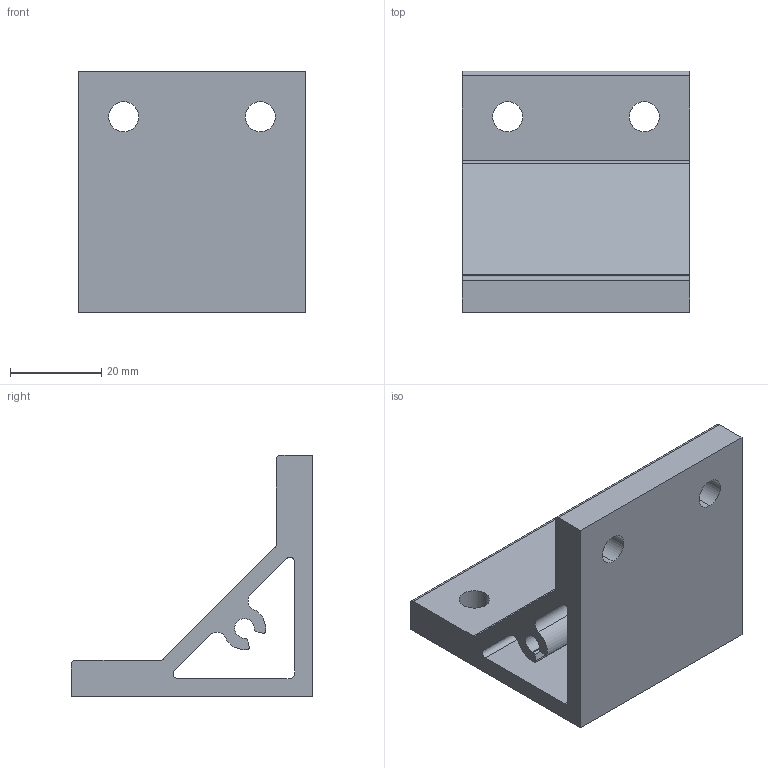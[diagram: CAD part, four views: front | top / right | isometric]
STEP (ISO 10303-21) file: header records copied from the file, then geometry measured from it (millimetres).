
FILE_DESCRIPTION (( 'STEP AP214' ), '1' );
FILE_NAME ('J3ARWN.step', '2017-05-24T07:37:56', ( 'admin' ), ( '' ), 'SwSTEP 2.0', 'SolidWorks 2014', '' );
FILE_SCHEMA (( 'AUTOMOTIVE_DESIGN' ));
Length unit declared in the file: millimetre
Products named in the file (1): J3ARWN
Bounding box: 50 x 53 x 53 mm (x, y, z)
Volume: 36646.7 mm3; surface area: 17419.9 mm2
Topology: 1 solids, 1 shells, 44 faces, 126 edges, 84 vertices
Faces by surface type: cylinder 29, plane 15
Entity records: 1522 total; most frequent: DIRECTION 274, CARTESIAN_POINT 255, ORIENTED_EDGE 252, EDGE_CURVE 126, AXIS2_PLACEMENT_3D 103, VERTEX_POINT 84, LINE 68, VECTOR 68
